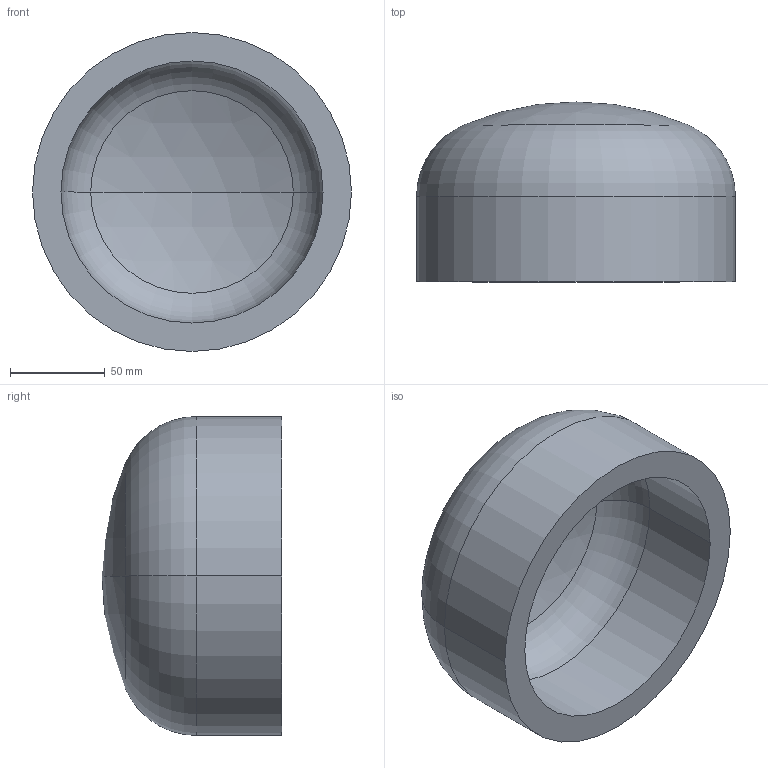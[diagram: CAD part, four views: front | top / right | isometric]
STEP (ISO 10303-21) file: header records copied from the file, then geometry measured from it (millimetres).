
FILE_DESCRIPTION (( 'STEP AP203' ), '1' );
FILE_NAME ('DIN 28013 Korbbogenform_-_Boden DIN 28013 - 168,3 x 45 - I - s=15.step', '2016-07-01T07:42:01', ( '' ), ( '' ), 'SwSTEP 2.0', 'SolidWorks 2013', '' );
FILE_SCHEMA (( 'CONFIG_CONTROL_DESIGN' ));
Length unit declared in the file: millimetre
Products named in the file (1): DIN 28013 Korbbogenform_-_Boden DIN 28013 - 168,3 x 45 - I - s=15
Bounding box: 168.3 x 94.9 x 168.3 mm (x, y, z)
Volume: 738878.2 mm3; surface area: 106212.4 mm2
Topology: 1 solids, 1 shells, 13 faces, 24 edges, 14 vertices
Faces by surface type: torus 4, cylinder 4, sphere 4, plane 1
Entity records: 407 total; most frequent: DIRECTION 72, CARTESIAN_POINT 52, ORIENTED_EDGE 48, AXIS2_PLACEMENT_3D 34, EDGE_CURVE 24, CIRCLE 20, VERTEX_POINT 14, EDGE_LOOP 14
